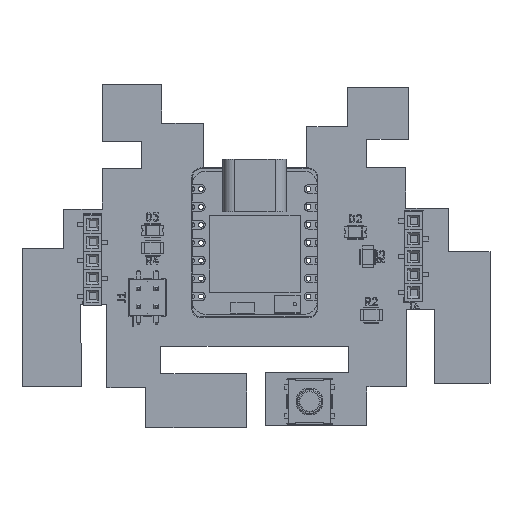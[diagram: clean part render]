
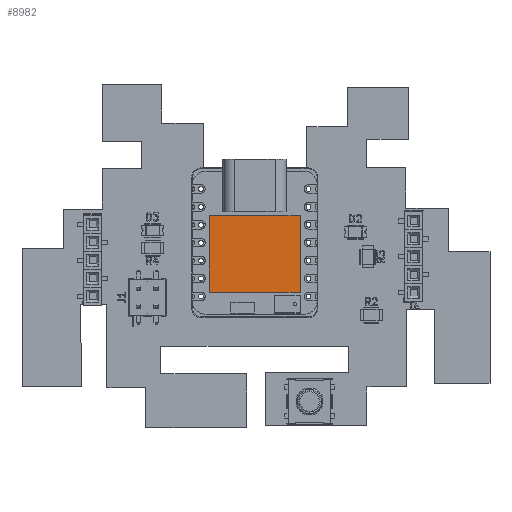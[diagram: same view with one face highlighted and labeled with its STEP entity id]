
A CAD part, top view. The second image highlights one B-rep face of the part: STEP entity #8982.
In plain terms, the highlighted planar face has unit normal (0, 0, 1).
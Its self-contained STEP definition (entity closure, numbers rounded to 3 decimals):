
#8853 = VERTEX_POINT('',#8854);
#8854 = CARTESIAN_POINT('',(-6.425,7.01,3.));
#8860 = EDGE_CURVE('',#8853,#8861,#8863,.T.);
#8861 = VERTEX_POINT('',#8862);
#8862 = CARTESIAN_POINT('',(-6.425,-3.84,3.));
#8863 = LINE('',#8864,#8865);
#8864 = CARTESIAN_POINT('',(-6.425,7.01,3.));
#8865 = VECTOR('',#8866,1.);
#8866 = DIRECTION('',(0.,-1.,0.));
#8891 = EDGE_CURVE('',#8861,#8892,#8894,.T.);
#8892 = VERTEX_POINT('',#8893);
#8893 = CARTESIAN_POINT('',(6.425,-3.84,3.));
#8894 = LINE('',#8895,#8896);
#8895 = CARTESIAN_POINT('',(-6.425,-3.84,3.));
#8896 = VECTOR('',#8897,1.);
#8897 = DIRECTION('',(1.,0.,0.));
#8922 = EDGE_CURVE('',#8892,#8923,#8925,.T.);
#8923 = VERTEX_POINT('',#8924);
#8924 = CARTESIAN_POINT('',(6.425,7.01,3.));
#8925 = LINE('',#8926,#8927);
#8926 = CARTESIAN_POINT('',(6.425,-3.84,3.));
#8927 = VECTOR('',#8928,1.);
#8928 = DIRECTION('',(0.,1.,0.));
#8953 = EDGE_CURVE('',#8923,#8853,#8954,.T.);
#8954 = LINE('',#8955,#8956);
#8955 = CARTESIAN_POINT('',(6.425,7.01,3.));
#8956 = VECTOR('',#8957,1.);
#8957 = DIRECTION('',(-1.,0.,0.));
#8982 = ADVANCED_FACE('',(#8983),#8989,.T.);
#8983 = FACE_BOUND('',#8984,.T.);
#8984 = EDGE_LOOP('',(#8985,#8986,#8987,#8988));
#8985 = ORIENTED_EDGE('',*,*,#8860,.T.);
#8986 = ORIENTED_EDGE('',*,*,#8891,.T.);
#8987 = ORIENTED_EDGE('',*,*,#8922,.T.);
#8988 = ORIENTED_EDGE('',*,*,#8953,.T.);
#8989 = PLANE('',#8990);
#8990 = AXIS2_PLACEMENT_3D('',#8991,#8992,#8993);
#8991 = CARTESIAN_POINT('',(0.,1.585,3.));
#8992 = DIRECTION('',(0.,0.,1.));
#8993 = DIRECTION('',(1.,0.,-0.));
